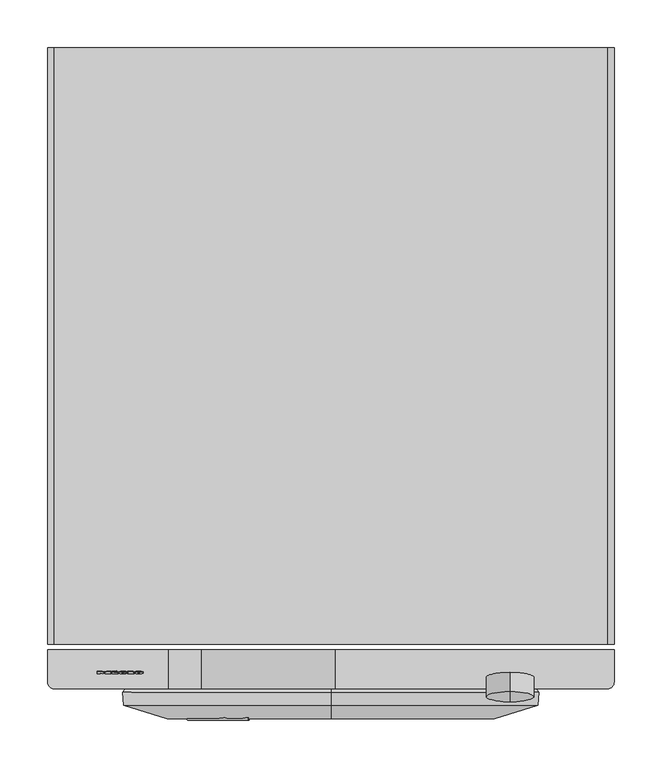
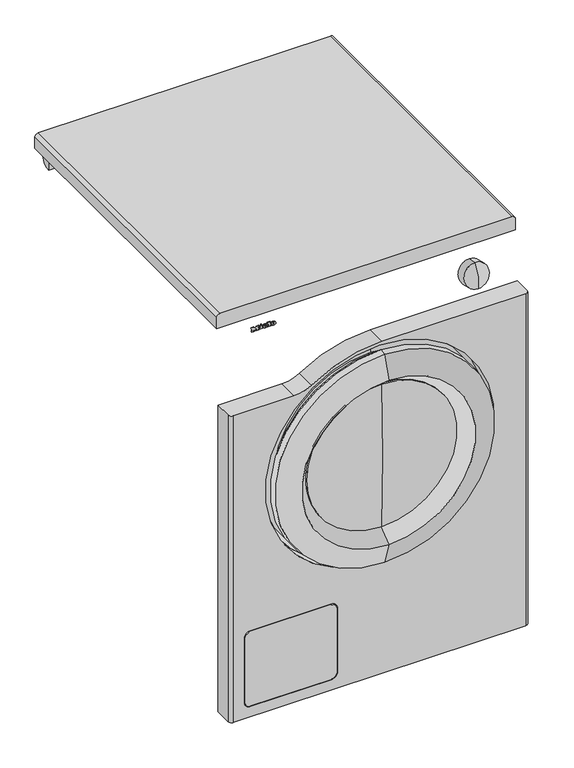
"""IFC4 building model written with IfcOpenShell, lengths in millimetres: proxy geometry, 11049680_D_PWM507DP_SST : 51507351_D_11049680_PWM507DP_SST."""

from ifc_helpers import new_model, si_unit, point, frame, frame_2d, origin, place, context, project, spatial, polyline, circle_curve, ellipse_curve, trimmed, segment, composite_curve, outline, extrude, source, transform, mapped, element, save
from ifc_brep_helpers import plane_surface, cylinder_surface, revolved_surface, extruded_surface, advanced_brep


def specialty_equipment_c7f8bacf(model_context):
    return source(origin(), model_context, "Body", "SolidModel", [
        advanced_brep(
        [(298.0, -637.0, 712.0), (298.0, -637.0, 13.5), (-298.0, -637.0, 13.5), (-298.0, -637.0, 659.0), (-170.4793435, -637.0, 659.0), (-135.8816811, -637.0, 669.4495268), (5.0, -637.0, 712.0), (0.0, -637.0, 628.0), (0.0, -637.0, 328.0), (-97.8720399, -637.0, 194.7938843), (-257.5266894, -637.0, 194.7938843), (-269.1610931, -637.0, 183.1594806), (-269.1610931, -637.0, 47.2319133), (-257.1610931, -637.0, 35.2319133), (-96.1598327, -637.0, 35.2319133), (-84.1993866, -637.0, 47.1923594), (-84.1993866, -637.0, 184.6186728), (-291.0, -678.0, 13.5), (291.0, -678.0, 13.5), (291.0, -678.0, 712.0), (5.0, -678.0, 712.0), (-135.8816811, -678.0, 669.4495268), (-170.4793435, -678.0, 659.0), (-291.0, -678.0, 659.0), (0.0, -678.0, 250.5), (0.0, -678.0, 705.5), (-257.5266894, -678.0, 194.7938843), (-97.8720399, -678.0, 194.7938843), (-84.1993866, -678.0, 184.6186728), (-84.1993866, -678.0, 47.1923594), (-96.1598327, -678.0, 35.2319133), (-257.1610931, -678.0, 35.2319133), (-269.1610931, -678.0, 47.2319133), (-269.1610931, -678.0, 183.1594806), (298.0, -671.0, 712.0), (-298.0, -671.0, 13.5), (-298.0, -671.0, 659.0), (298.0, -671.0, 13.5), (0.0, -653.2, 705.5), (0.0, -653.2, 250.5), (0.0, -645.7, 671.0), (0.0, -645.7, 698.0), (0.0, -645.7, 258.0), (0.0, -645.7, 285.0), (0.0, -638.7, 289.0414519), (0.0, -638.7, 666.9585481), (0.0, -638.7, 322.8), (0.0, -638.7, 633.2), (0.0, -648.5, 322.8), (0.0, -648.5, 633.2), (0.0, -648.5, 341.8), (0.0, -648.5, 614.2), (0.0, -646.0, 341.8), (0.0, -646.0, 614.2), (0.0, -646.0, 328.0), (0.0, -646.0, 628.0)],
        [
            (0, 1),
            (1, 2),
            (2, 3),
            (3, 4),
            (4, 5, circle_curve(frame((-170.4793435, -637.0, 721.5), z_axis=(0.0, -1.0, 0.0), x_axis=(1.0, 0.0, 0.0)), 62.5)),
            (5, 6, circle_curve(frame((5.0, -637.0, 457.5), z_axis=(0.0, 1.0, 0.0), x_axis=(1.0, 0.0, 0.0)), 254.5)),
            (6, 0),
            (7, 8, circle_curve(frame((0.0, -637.0, 478.0), z_axis=(0.0, -1.0, 0.0), x_axis=(0.0, 0.0, -1.0)), 150.0)),
            (8, 7, circle_curve(frame((0.0, -637.0, 478.0), z_axis=(0.0, -1.0, 0.0), x_axis=(0.0, 0.0, -1.0)), 150.0)),
            (9, 10),
            (10, 11, circle_curve(frame((-257.5266894, -637.0, 183.1594806), z_axis=(0.0, -1.0, 0.0), x_axis=(1.0, 0.0, 0.0)), 11.6344037)),
            (11, 12),
            (12, 13, circle_curve(frame((-257.1610931, -637.0, 47.2319133), z_axis=(0.0, -1.0, 0.0), x_axis=(1.0, 0.0, 0.0)), 12.0)),
            (13, 14),
            (14, 15, circle_curve(frame((-96.1598327, -637.0, 47.1923594), z_axis=(0.0, -1.0, 0.0), x_axis=(1.0, 0.0, 0.0)), 11.9604461)),
            (15, 16),
            (16, 9, circle_curve(frame((-97.8720399, -637.0, 180.5201576), z_axis=(0.0, -1.0, 0.0), x_axis=(1.0, 0.0, 0.0)), 14.2737268)),
            (17, 18),
            (18, 19),
            (19, 20),
            (20, 21, circle_curve(frame((5.0, -678.0, 457.5), z_axis=(0.0, -1.0, 0.0), x_axis=(1.0, 0.0, 0.0)), 254.5)),
            (21, 22, circle_curve(frame((-170.4793435, -678.0, 721.5), z_axis=(0.0, 1.0, 0.0), x_axis=(1.0, 0.0, 0.0)), 62.5)),
            (22, 23),
            (23, 17),
            (24, 25, circle_curve(frame((0.0, -678.0, 478.0), z_axis=(0.0, 1.0, 0.0), x_axis=(0.0, 0.0, -1.0)), 227.5)),
            (25, 24, circle_curve(frame((0.0, -678.0, 478.0), z_axis=(0.0, 1.0, 0.0), x_axis=(0.0, 0.0, -1.0)), 227.5)),
            (26, 27),
            (27, 28, circle_curve(frame((-97.8720399, -678.0, 180.5201576), z_axis=(0.0, 1.0, 0.0), x_axis=(1.0, 0.0, 0.0)), 14.2737268)),
            (28, 29),
            (29, 30, circle_curve(frame((-96.1598327, -678.0, 47.1923594), z_axis=(0.0, 1.0, 0.0), x_axis=(1.0, 0.0, 0.0)), 11.9604461)),
            (30, 31),
            (31, 32, circle_curve(frame((-257.1610931, -678.0, 47.2319133), z_axis=(0.0, 1.0, 0.0), x_axis=(1.0, 0.0, 0.0)), 12.0)),
            (32, 33),
            (33, 26, circle_curve(frame((-257.5266894, -678.0, 183.1594806), z_axis=(0.0, 1.0, 0.0), x_axis=(1.0, 0.0, 0.0)), 11.6344037)),
            (34, 0),
            (6, 20),
            (19, 34, circle_curve(frame((291.0, -671.0, 712.0), z_axis=(0.0, 0.0, 1.0), x_axis=(-1.0, 0.0, 0.0)), 7.0)),
            (2, 35),
            (35, 36),
            (36, 3),
            (1, 37),
            (37, 18, circle_curve(frame((291.0, -671.0, 13.5), z_axis=(0.0, 0.0, -1.0), x_axis=(-1.0, 0.0, 0.0)), 7.0)),
            (17, 35, circle_curve(frame((-291.0, -671.0, 13.5), z_axis=(0.0, 0.0, -1.0), x_axis=(-1.0, 0.0, 0.0)), 7.0)),
            (34, 37),
            (38, 25),
            (24, 39),
            (39, 38, circle_curve(frame((0.0, -653.2, 478.0), z_axis=(0.0, 1.0, 0.0), x_axis=(0.0, 0.0, -1.0)), 227.5)),
            (38, 39, circle_curve(frame((0.0, -653.2, 478.0), z_axis=(0.0, 1.0, 0.0), x_axis=(0.0, 0.0, -1.0)), 227.5)),
            (40, 41),
            (41, 42, circle_curve(frame((0.0, -645.7, 478.0), z_axis=(0.0, -1.0, 0.0), x_axis=(0.0, 0.0, -1.0)), 220.0)),
            (42, 43),
            (43, 40, circle_curve(frame((0.0, -645.7, 478.0), z_axis=(0.0, 1.0, 0.0), x_axis=(0.0, 0.0, -1.0)), 193.0)),
            (40, 43, circle_curve(frame((0.0, -645.7, 478.0), z_axis=(0.0, 1.0, 0.0), x_axis=(0.0, 0.0, -1.0)), 193.0)),
            (42, 41, circle_curve(frame((0.0, -645.7, 478.0), z_axis=(0.0, -1.0, 0.0), x_axis=(0.0, 0.0, -1.0)), 220.0)),
            (43, 44),
            (44, 45, circle_curve(frame((0.0, -638.7, 478.0), z_axis=(0.0, 1.0, 0.0), x_axis=(0.0, 0.0, -1.0)), 188.9585481)),
            (45, 40),
            (45, 44, circle_curve(frame((0.0, -638.7, 478.0), z_axis=(0.0, 1.0, 0.0), x_axis=(0.0, 0.0, -1.0)), 188.9585481)),
            (44, 46),
            (46, 47, circle_curve(frame((0.0, -638.7, 478.0), z_axis=(0.0, 1.0, 0.0), x_axis=(0.0, 0.0, -1.0)), 155.2)),
            (47, 45),
            (47, 46, circle_curve(frame((0.0, -638.7, 478.0), z_axis=(0.0, 1.0, 0.0), x_axis=(0.0, 0.0, -1.0)), 155.2)),
            (46, 48),
            (48, 49, circle_curve(frame((0.0, -648.5, 478.0), z_axis=(0.0, 1.0, 0.0), x_axis=(0.0, 0.0, -1.0)), 155.2)),
            (49, 47),
            (49, 48, circle_curve(frame((0.0, -648.5, 478.0), z_axis=(0.0, 1.0, 0.0), x_axis=(0.0, 0.0, -1.0)), 155.2)),
            (48, 50),
            (50, 51, circle_curve(frame((0.0, -648.5, 478.0), z_axis=(0.0, 1.0, 0.0), x_axis=(0.0, 0.0, -1.0)), 136.2)),
            (51, 49),
            (51, 50, circle_curve(frame((0.0, -648.5, 478.0), z_axis=(0.0, 1.0, 0.0), x_axis=(0.0, 0.0, -1.0)), 136.2)),
            (50, 52),
            (52, 53, circle_curve(frame((0.0, -646.0, 478.0), z_axis=(0.0, 1.0, 0.0), x_axis=(0.0, 0.0, -1.0)), 136.2)),
            (53, 51),
            (53, 52, circle_curve(frame((0.0, -646.0, 478.0), z_axis=(0.0, 1.0, 0.0), x_axis=(0.0, 0.0, -1.0)), 136.2)),
            (52, 54),
            (54, 55, circle_curve(frame((0.0, -646.0, 478.0), z_axis=(0.0, 1.0, 0.0), x_axis=(0.0, 0.0, -1.0)), 150.0)),
            (55, 53),
            (55, 54, circle_curve(frame((0.0, -646.0, 478.0), z_axis=(0.0, 1.0, 0.0), x_axis=(0.0, 0.0, -1.0)), 150.0)),
            (54, 8),
            (7, 55),
            (39, 42, circle_curve(frame((0.0, -653.2, 258.0), z_axis=(1.0, 0.0, 0.0), x_axis=(0.0, 1.0, 0.0)), 7.5)),
            (41, 38, circle_curve(frame((0.0, -653.2, 698.0), z_axis=(1.0, 0.0, 0.0), x_axis=(0.0, 1.0, 0.0)), 7.5)),
            (23, 36, circle_curve(frame((-291.0, -671.0, 659.0), z_axis=(0.0, 0.0, -1.0), x_axis=(-1.0, 0.0, 0.0)), 7.0)),
            (5, 21),
            (4, 22),
            (26, 10),
            (9, 27),
            (33, 11),
            (32, 12),
            (31, 13),
            (30, 14),
            (29, 15),
            (28, 16),
        ],
        [
            plane_surface(frame((-298.0, -637.0, 712.0), z_axis=(0.0, 1.0, 0.0), x_axis=(1.0, 0.0, 0.0))),
            plane_surface(frame((-298.0, -678.0, 712.0), z_axis=(0.0, -1.0, 0.0), x_axis=(-1.0, 0.0, 0.0))),
            plane_surface(frame((298.0, -678.0, 712.0), z_axis=(0.0, 0.0, 1.0), x_axis=(0.0, 1.0, 0.0))),
            plane_surface(frame((-298.0, -678.0, 712.0), z_axis=(-1.0, 0.0, 0.0), x_axis=(0.0, 1.0, 0.0))),
            plane_surface(frame((-298.0, -678.0, 13.5), z_axis=(0.0, 0.0, -1.0), x_axis=(0.0, 1.0, 0.0))),
            plane_surface(frame((298.0, -678.0, 13.5), z_axis=(1.0, 0.0, 0.0), x_axis=(0.0, 1.0, 0.0))),
            revolved_surface(polyline([(0.0, -653.2000000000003, 250.5), (0.0, -678.0, 250.5)]), (0.0, 1543.3738435, 478.0), (0.0, 1.0, 0.0)),
            plane_surface(frame((0.0, -645.7, 478.0), z_axis=(0.0, -1.0, 0.0), x_axis=(0.0, 0.0, -1.0))),
            revolved_surface(polyline([(0.0, -638.7, 289.0414519), (0.0, -645.7, 285.0)]), (0.0, 1543.3738435, 478.0), (0.0, 1.0, 0.0)),
            plane_surface(frame((0.0, -638.7, 478.0), z_axis=(0.0, -1.0, 0.0), x_axis=(0.0, 0.0, -1.0))),
            cylinder_surface(frame((0.0, 1543.3738435, 478.0), z_axis=(0.0, 1.0, 0.0), x_axis=(0.0, 0.0, -1.0)), 155.2),
            plane_surface(frame((0.0, -648.5, 478.0), z_axis=(0.0, -1.0, 0.0), x_axis=(0.0, 0.0, -1.0))),
            revolved_surface(polyline([(0.0, -646.0, 341.8), (0.0, -648.5, 341.8)]), (0.0, 1543.3738435, 478.0), (0.0, 1.0, 0.0)),
            plane_surface(frame((0.0, -646.0, 478.0), z_axis=(0.0, 1.0, 0.0), x_axis=(0.0, 0.0, -1.0))),
            revolved_surface(polyline([(0.0, -637.0, 328.0), (0.0, -646.0, 328.0)]), (0.0, 1543.3738435, 478.0), (0.0, 1.0, 0.0)),
            revolved_surface(trimmed(ellipse_curve(frame((0.0, -653.2, 258.0), z_axis=(-1.0, 0.0, 0.0), x_axis=(0.0, 1.0, 0.0)), 7.5, 7.5), [point((0.0, -645.7, 258.0))], [point((0.0, -653.2, 250.5))], True, "CARTESIAN"), (0.0, 1543.3738435, 478.0), (0.0, 1.0, 0.0)),
            cylinder_surface(frame((-291.0, -671.0, 712.0), z_axis=(0.0, 0.0, -1.0), x_axis=(-1.0, 0.0, 0.0)), 7.0),
            cylinder_surface(frame((291.0, -671.0, 712.0), z_axis=(0.0, 0.0, -1.0), x_axis=(-1.0, 0.0, 0.0)), 7.0),
            cylinder_surface(frame((5.0, -637.0, 457.5), z_axis=(0.0, 1.0, 0.0), x_axis=(1.0, 0.0, 0.0)), 254.5),
            revolved_surface(polyline([(-107.9793435, -678.0, 721.5), (-107.9793435, -637.0, 721.5)]), (-170.4793435, -637.0, 721.5), (0.0, -1.0, 0.0)),
            plane_surface(frame((-298.0, -678.0, 659.0), z_axis=(0.0, 0.0, 1.0), x_axis=(0.0, 1.0, 0.0))),
            plane_surface(frame((-97.8720399, -678.0, 194.7938843), z_axis=(0.0, 0.0, -1.0), x_axis=(0.0, 1.0, 0.0))),
            revolved_surface(polyline([(-245.8922857, -678.0, 183.1594806), (-245.8922857, -637.0, 183.1594806)]), (-257.5266894, -637.0, 183.1594806), (0.0, -1.0, 0.0)),
            plane_surface(frame((-269.1610931, -678.0, 183.1594806), z_axis=(1.0, 0.0, 0.0), x_axis=(0.0, 1.0, 0.0))),
            revolved_surface(polyline([(-245.16109310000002, -678.0, 47.2319133), (-245.16109310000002, -637.0, 47.2319133)]), (-257.1610931, -637.0, 47.2319133), (0.0, -1.0, 0.0)),
            plane_surface(frame((-257.1610931, -678.0, 35.2319133), z_axis=(0.0, 0.0, 1.0), x_axis=(0.0, 1.0, 0.0))),
            revolved_surface(polyline([(-84.1993866, -678.0, 47.1923594), (-84.1993866, -637.0, 47.1923594)]), (-96.1598327, -637.0, 47.1923594), (0.0, -1.0, 0.0)),
            plane_surface(frame((-84.1993866, -678.0, 47.1923594), z_axis=(-1.0, 0.0, 0.0), x_axis=(0.0, 1.0, 0.0))),
            revolved_surface(polyline([(-83.5983131, -678.0, 180.5201576), (-83.5983131, -637.0, 180.5201576)]), (-97.8720399, -637.0, 180.5201576), (0.0, -1.0, 0.0)),
        ],
        [
            (0, [[1, 2, 3, 4, 5, 6, 7], [8, 9], [10, 11, 12, 13, 14, 15, 16, 17]]),
            (1, [[18, 19, 20, 21, 22, 23, 24], [25, 26], [27, 28, 29, 30, 31, 32, 33, 34]]),
            (2, [[35, -7, 36, -20, 37]]),
            (3, [[38, 39, 40, -3]]),
            (4, [[-2, 41, 42, -18, 43, -38]]),
            (5, [[-1, -35, 44, -41]]),
            (6, [[45, -25, 46, 47]]),
            (6, [[-45, 48, -46, -26]]),
            (7, [[49, 50, 51, 52]]),
            (7, [[-49, 53, -51, 54]]),
            (8, [[-52, 55, 56, 57]]),
            (8, [[-53, -57, 58, -55]]),
            (9, [[-56, 59, 60, 61]]),
            (9, [[-58, -61, 62, -59]]),
            (10, [[-60, 63, 64, 65]]),
            (10, [[-62, -65, 66, -63]]),
            (11, [[-64, 67, 68, 69]]),
            (11, [[-66, -69, 70, -67]]),
            (12, [[-68, 71, 72, 73]]),
            (12, [[-70, -73, 74, -71]]),
            (13, [[-72, 75, 76, 77]]),
            (13, [[-74, -77, 78, -75]]),
            (14, [[-76, 79, -8, 80]]),
            (14, [[-78, -80, -9, -79]]),
            (15, [[-47, 81, -50, 82]]),
            (15, [[-48, -82, -54, -81]]),
            (16, [[-43, -24, 83, -39]]),
            (17, [[-19, -42, -44, -37]]),
            (18, [[84, -21, -36, -6]]),
            (19, [[-84, -5, 85, -22]]),
            (20, [[-85, -4, -40, -83, -23]]),
            (21, [[86, -10, 87, -27]]),
            (22, [[-86, -34, 88, -11]]),
            (23, [[-88, -33, 89, -12]]),
            (24, [[-89, -32, 90, -13]]),
            (25, [[-90, -31, 91, -14]]),
            (26, [[-91, -30, 92, -15]]),
            (27, [[-92, -29, 93, -16]]),
            (28, [[-87, -17, -93, -28]]),
        ],
    ),
        advanced_brep(
        [(-85.1993866, -637.0, 178.871588), (-85.1993866, -637.0, 49.2598644), (-98.2273377, -637.0, 36.2319133), (-257.1610931, -637.0, 36.2319133), (-268.1610931, -637.0, 47.2319133), (-268.1610931, -637.0, 180.922098), (-255.2893068, -637.0, 193.7938843), (-99.0652877, -637.0, 193.7938843), (-85.1993866, -678.0, 49.2598644), (-85.1993866, -678.0, 178.871588), (-99.0652877, -678.0, 193.7938843), (-255.2893068, -678.0, 193.7938843), (-268.1610931, -678.0, 180.922098), (-268.1610931, -678.0, 47.2319133), (-257.1610931, -678.0, 36.2319133), (-98.2273377, -678.0, 36.2319133)],
        [
            (0, 1),
            (1, 2, circle_curve(frame((-98.2273377, -637.0, 49.2598644), z_axis=(0.0, 1.0, 0.0), x_axis=(1.0, 0.0, 0.0)), 13.0279511)),
            (2, 3),
            (3, 4, circle_curve(frame((-257.1610931, -637.0, 47.2319133), z_axis=(0.0, 1.0, 0.0), x_axis=(1.0, 0.0, 0.0)), 11.0)),
            (4, 5),
            (5, 6, circle_curve(frame((-255.2893068, -637.0, 180.922098), z_axis=(0.0, 1.0, 0.0), x_axis=(1.0, 0.0, 0.0)), 12.8717863)),
            (6, 7),
            (7, 0, circle_curve(frame((-99.9078885, -637.0, 179.10764), z_axis=(0.0, 1.0, 0.0), x_axis=(1.0, 0.0, 0.0)), 14.7103959)),
            (8, 9),
            (9, 10, circle_curve(frame((-99.9078885, -678.0, 179.10764), z_axis=(0.0, -1.0, 0.0), x_axis=(1.0, 0.0, 0.0)), 14.7103959)),
            (10, 11),
            (11, 12, circle_curve(frame((-255.2893068, -678.0, 180.922098), z_axis=(0.0, -1.0, 0.0), x_axis=(1.0, 0.0, 0.0)), 12.8717863)),
            (12, 13),
            (13, 14, circle_curve(frame((-257.1610931, -678.0, 47.2319133), z_axis=(0.0, -1.0, 0.0), x_axis=(1.0, 0.0, 0.0)), 11.0)),
            (14, 15),
            (15, 8, circle_curve(frame((-98.2273377, -678.0, 49.2598644), z_axis=(0.0, -1.0, 0.0), x_axis=(1.0, 0.0, 0.0)), 13.0279511)),
            (8, 1),
            (0, 9),
            (15, 2),
            (14, 3),
            (13, 4),
            (12, 5),
            (11, 6),
            (10, 7),
        ],
        [
            plane_surface(frame((-298.0, -637.0, 712.0), z_axis=(0.0, 1.0, 0.0), x_axis=(1.0, 0.0, 0.0))),
            plane_surface(frame((-298.0, -678.0, 712.0), z_axis=(0.0, -1.0, 0.0), x_axis=(-1.0, 0.0, 0.0))),
            plane_surface(frame((-85.1993866, -678.0, 178.871588), z_axis=(1.0, 0.0, 0.0), x_axis=(0.0, 1.0, 0.0))),
            cylinder_surface(frame((-98.2273377, 0.0, 49.2598644), z_axis=(0.0, 1.0, 0.0), x_axis=(1.0, 0.0, 0.0)), 13.0279511),
            plane_surface(frame((-98.2273377, -678.0, 36.2319133), z_axis=(0.0, 0.0, -1.0), x_axis=(0.0, 1.0, 0.0))),
            cylinder_surface(frame((-257.1610931, 0.0, 47.2319133), z_axis=(0.0, 1.0, 0.0), x_axis=(1.0, 0.0, 0.0)), 11.0),
            plane_surface(frame((-268.1610931, -678.0, 47.2319133), z_axis=(-1.0, 0.0, 0.0), x_axis=(0.0, 1.0, 0.0))),
            cylinder_surface(frame((-255.2893068, 0.0, 180.922098), z_axis=(0.0, 1.0, 0.0), x_axis=(1.0, 0.0, 0.0)), 12.8717863),
            plane_surface(frame((-255.2893068, -678.0, 193.7938843), z_axis=(0.0, 0.0, 1.0), x_axis=(0.0, 1.0, 0.0))),
            cylinder_surface(frame((-99.9078885, 0.0, 179.10764), z_axis=(0.0, 1.0, 0.0), x_axis=(1.0, 0.0, 0.0)), 14.7103959),
        ],
        [
            (0, [[1, 2, 3, 4, 5, 6, 7, 8]]),
            (1, [[9, 10, 11, 12, 13, 14, 15, 16]]),
            (2, [[17, -1, 18, -9]]),
            (3, [[-17, -16, 19, -2]]),
            (4, [[-19, -15, 20, -3]]),
            (5, [[-20, -14, 21, -4]]),
            (6, [[-21, -13, 22, -5]]),
            (7, [[-22, -12, 23, -6]]),
            (8, [[-23, -11, 24, -7]]),
            (9, [[-18, -8, -24, -10]]),
        ],
    ),
        advanced_brep(
        [(-202.64, -661.6785086, 811.5729364), (-202.64, -661.5105159, 812.3632796), (-197.288, -661.5105159, 812.3632796), (-206.6, -661.5105159, 812.3632796), (-204.4, -662.0727091, 809.7183685), (-197.424, -661.6785086, 811.5729364), (-199.84, -661.6785086, 811.5729364), (-201.744, -661.8647975, 810.6965161), (-202.64, -661.2976144, 813.3649028), (-202.64, -661.1163154, 814.2178475), (-201.272, -661.1163154, 814.2178475), (-201.272, -661.2976144, 813.3649028), (-202.64, -660.700361, 811.3650247), (-201.744, -660.8866499, 810.4886044), (-199.84, -660.700361, 811.3650247), (-197.424, -660.700361, 811.3650247), (-204.4, -661.0945615, 809.5104568), (-206.6, -660.5323683, 812.1553679), (-197.288, -660.5323683, 812.1553679), (-202.64, -660.5323683, 812.1553679), (-202.64, -660.3194668, 813.1569911), (-201.272, -660.3194668, 813.1569911), (-201.272, -660.1381678, 814.0099358), (-202.64, -660.1381678, 814.0099358)],
        [
            (0, 1),
            (1, 2),
            (2, 3, ellipse_curve(frame((-201.944, -661.5105159, 812.3632796), z_axis=(0.0, -0.9781476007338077, 0.2079116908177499), x_axis=(-1.0, 0.0, 0.0)), 4.656, 3.848)),
            (3, 4, circle_curve(frame((-203.5039564, -661.453964, 812.6293358), z_axis=(0.0, -0.9781476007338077, 0.2079116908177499), x_axis=(0.0, -0.2079116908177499, -0.9781476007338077)), 3.1079688)),
            (4, 5, circle_curve(frame((-202.0372064, -661.0148545, 814.6951835), z_axis=(0.0, -0.9781476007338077, 0.2079116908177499), x_axis=(0.0, -0.2079116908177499, -0.9781476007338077)), 5.6098607)),
            (5, 6),
            (6, 7, circle_curve(frame((-201.3529412, -661.5238223, 812.3006782), z_axis=(0.0, 0.9781476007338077, -0.2079116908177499), x_axis=(0.0, -0.2079116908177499, -0.9781476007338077)), 1.6859795)),
            (7, 0, circle_curve(frame((-201.744, -661.6785086, 811.5729364), z_axis=(0.0, 0.9781476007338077, -0.2079116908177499), x_axis=(0.0, -0.2079116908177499, -0.9781476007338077)), 0.896)),
            (8, 9),
            (9, 10, circle_curve(frame((-201.956, -661.1163154, 814.2178475), z_axis=(0.0, 0.9781476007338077, -0.2079116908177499), x_axis=(0.0, -0.2079116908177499, -0.9781476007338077)), 0.684)),
            (10, 11),
            (11, 8),
            (12, 13, circle_curve(frame((-201.744, -660.700361, 811.3650247), z_axis=(0.0, -0.9781476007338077, 0.2079116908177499), x_axis=(0.0, -0.2079116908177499, -0.9781476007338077)), 0.896)),
            (13, 14, circle_curve(frame((-201.3529412, -660.5456747, 812.0927665), z_axis=(0.0, -0.9781476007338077, 0.2079116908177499), x_axis=(0.0, -0.2079116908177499, -0.9781476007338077)), 1.6859795)),
            (14, 15),
            (15, 16, circle_curve(frame((-202.0372064, -660.0367069, 814.4872718), z_axis=(0.0, 0.9781476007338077, -0.2079116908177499), x_axis=(0.0, -0.2079116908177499, -0.9781476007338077)), 5.6098607)),
            (16, 17, circle_curve(frame((-203.5039564, -660.4758164, 812.4214241), z_axis=(0.0, 0.9781476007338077, -0.2079116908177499), x_axis=(0.0, -0.2079116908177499, -0.9781476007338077)), 3.1079688)),
            (17, 18, ellipse_curve(frame((-201.944, -660.5323683, 812.1553679), z_axis=(0.0, 0.9781476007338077, -0.2079116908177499), x_axis=(-1.0, 0.0, 0.0)), 4.656, 3.848)),
            (18, 19),
            (19, 12),
            (20, 21),
            (21, 22),
            (22, 23, circle_curve(frame((-201.956, -660.1381678, 814.0099358), z_axis=(0.0, -0.9781476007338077, 0.2079116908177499), x_axis=(0.0, -0.2079116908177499, -0.9781476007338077)), 0.684)),
            (23, 20),
            (0, 12),
            (19, 1),
            (18, 2),
            (5, 15),
            (14, 6),
            (17, 3),
            (13, 7),
            (16, 4),
            (8, 20),
            (23, 9),
            (22, 10),
            (21, 11),
        ],
        [
            plane_surface(frame((-202.64, -661.5105159, 812.3632796), z_axis=(0.0, -0.9781476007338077, 0.2079116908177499), x_axis=(0.0, 0.2079116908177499, 0.9781476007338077))),
            plane_surface(frame((-202.64, -660.5323683, 812.1553679), z_axis=(0.0, 0.9781476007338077, -0.2079116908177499), x_axis=(0.0, -0.2079116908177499, -0.9781476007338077))),
            plane_surface(frame((-202.64, -661.6785086, 811.5729364), z_axis=(1.0000000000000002, 0.0, 0.0), x_axis=(0.0, 0.978147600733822, -0.20791169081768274))),
            plane_surface(frame((-202.64, -661.5105159, 812.3632796), z_axis=(0.0, -0.20791169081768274, -0.978147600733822), x_axis=(0.0, 0.978147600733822, -0.20791169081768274))),
            plane_surface(frame((-197.424, -661.6785086, 811.5729364), z_axis=(0.0, 0.20791169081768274, 0.978147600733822), x_axis=(0.0, 0.978147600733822, -0.20791169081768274))),
            extruded_surface(trimmed(ellipse_curve(frame((-201.944, -659.5542207, 811.9474562), z_axis=(0.0, -0.9781476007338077, 0.2079116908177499), x_axis=(-1.0, 0.0, 0.0)), 4.656, 3.848), [point((-197.288, -659.5542207, 811.9474562))], [point((-206.6, -659.5542207, 811.9474562))], True, "CARTESIAN"), (0.0, -0.9781476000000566, 0.20791169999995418), 1.0000000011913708),
            revolved_surface(polyline([(-201.3529412, -660.896209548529, 810.4436296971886), (-201.3529412, -661.8743571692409, 810.6515413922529)]), (-201.3529412, -660.5456747, 812.0927665), (0.0, 0.9781476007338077, -0.2079116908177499)),
            revolved_surface(polyline([(-201.744, -660.8866498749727, 810.4886044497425), (-201.744, -661.8647974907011, 810.6965161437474)]), (-201.744, -660.700361, 811.3650247), (0.0, 0.9781476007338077, -0.2079116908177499)),
            cylinder_surface(frame((-203.5039564, -660.4758164, 812.4214241), z_axis=(0.0, -0.9781476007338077, 0.2079116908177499), x_axis=(0.0, -0.2079116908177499, -0.9781476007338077)), 3.1079688),
            cylinder_surface(frame((-202.0372064, -660.0367069, 814.4872718), z_axis=(0.0, -0.9781476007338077, 0.2079116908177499), x_axis=(0.0, -0.2079116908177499, -0.9781476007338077)), 5.6098607),
            plane_surface(frame((-202.64, -661.2976144, 813.3649028), z_axis=(1.0000000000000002, 0.0, 0.0), x_axis=(0.0, 0.9781476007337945, -0.20791169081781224))),
            revolved_surface(polyline([(-201.956, -660.2803793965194, 813.340882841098), (-201.956, -661.2585269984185, 813.5487945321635)]), (-201.956, -660.1381678, 814.0099358), (0.0, 0.9781476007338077, -0.2079116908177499)),
            plane_surface(frame((-201.272, -661.1163154, 814.2178475), z_axis=(-1.0000000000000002, 0.0, 0.0), x_axis=(0.0, 0.978147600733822, -0.20791169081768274))),
            plane_surface(frame((-201.272, -661.2976144, 813.3649028), z_axis=(0.0, 0.20791169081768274, 0.978147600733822), x_axis=(0.0, 0.978147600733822, -0.20791169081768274))),
        ],
        [
            (0, [[1, 2, 3, 4, 5, 6, 7, 8], [9, 10, 11, 12]]),
            (1, [[13, 14, 15, 16, 17, 18, 19, 20], [21, 22, 23, 24]]),
            (2, [[-1, 25, -20, 26]]),
            (3, [[-2, -26, -19, 27]]),
            (4, [[-6, 28, -15, 29]]),
            (5, [[-3, -27, -18, 30]]),
            (6, [[-7, -29, -14, 31]]),
            (7, [[-8, -31, -13, -25]]),
            (8, [[-4, -30, -17, 32]]),
            (9, [[-5, -32, -16, -28]]),
            (10, [[-9, 33, -24, 34]]),
            (11, [[-10, -34, -23, 35]]),
            (12, [[-11, -35, -22, 36]]),
            (13, [[-12, -36, -21, -33]]),
        ],
    ),
        advanced_brep(
        [(-219.336, -661.6785086, 811.5729364), (-219.336, -661.5105159, 812.3632796), (-213.984, -661.5105159, 812.3632796), (-223.296, -661.5105159, 812.3632796), (-221.096, -662.0727091, 809.7183685), (-214.12, -661.6785086, 811.5729364), (-216.536, -661.6785086, 811.5729364), (-218.44, -661.8647975, 810.6965161), (-219.336, -661.2976144, 813.3649028), (-219.336, -661.1163154, 814.2178475), (-217.968, -661.1163154, 814.2178475), (-217.968, -661.2976144, 813.3649028), (-219.336, -660.700361, 811.3650247), (-218.44, -660.8866499, 810.4886044), (-216.536, -660.700361, 811.3650247), (-214.12, -660.700361, 811.3650247), (-221.096, -661.0945615, 809.5104568), (-223.296, -660.5323683, 812.1553679), (-213.984, -660.5323683, 812.1553679), (-219.336, -660.5323683, 812.1553679), (-219.336, -660.3194668, 813.1569911), (-217.968, -660.3194668, 813.1569911), (-217.968, -660.1381678, 814.0099358), (-219.336, -660.1381678, 814.0099358)],
        [
            (0, 1),
            (1, 2),
            (2, 3, ellipse_curve(frame((-218.64, -661.5105159, 812.3632796), z_axis=(0.0, -0.9781476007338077, 0.2079116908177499), x_axis=(-1.0, 0.0, 0.0)), 4.656, 3.848)),
            (3, 4, circle_curve(frame((-220.1999564, -661.453964, 812.6293358), z_axis=(0.0, -0.9781476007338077, 0.2079116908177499), x_axis=(0.0, -0.2079116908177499, -0.9781476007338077)), 3.1079688)),
            (4, 5, circle_curve(frame((-218.7332064, -661.0148545, 814.6951835), z_axis=(0.0, -0.9781476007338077, 0.2079116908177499), x_axis=(0.0, -0.2079116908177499, -0.9781476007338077)), 5.6098607)),
            (5, 6),
            (6, 7, circle_curve(frame((-218.0489412, -661.5238223, 812.3006782), z_axis=(0.0, 0.9781476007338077, -0.2079116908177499), x_axis=(0.0, -0.2079116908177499, -0.9781476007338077)), 1.6859795)),
            (7, 0, circle_curve(frame((-218.44, -661.6785086, 811.5729364), z_axis=(0.0, 0.9781476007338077, -0.2079116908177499), x_axis=(0.0, -0.2079116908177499, -0.9781476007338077)), 0.896)),
            (8, 9),
            (9, 10, circle_curve(frame((-218.652, -661.1163154, 814.2178475), z_axis=(0.0, 0.9781476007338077, -0.2079116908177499), x_axis=(0.0, -0.2079116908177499, -0.9781476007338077)), 0.684)),
            (10, 11),
            (11, 8),
            (12, 13, circle_curve(frame((-218.44, -660.700361, 811.3650247), z_axis=(0.0, -0.9781476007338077, 0.2079116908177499), x_axis=(0.0, -0.2079116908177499, -0.9781476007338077)), 0.896)),
            (13, 14, circle_curve(frame((-218.0489412, -660.5456747, 812.0927665), z_axis=(0.0, -0.9781476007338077, 0.2079116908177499), x_axis=(0.0, -0.2079116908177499, -0.9781476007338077)), 1.6859795)),
            (14, 15),
            (15, 16, circle_curve(frame((-218.7332064, -660.0367069, 814.4872718), z_axis=(0.0, 0.9781476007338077, -0.2079116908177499), x_axis=(0.0, -0.2079116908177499, -0.9781476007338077)), 5.6098607)),
            (16, 17, circle_curve(frame((-220.1999564, -660.4758164, 812.4214241), z_axis=(0.0, 0.9781476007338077, -0.2079116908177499), x_axis=(0.0, -0.2079116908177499, -0.9781476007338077)), 3.1079688)),
            (17, 18, ellipse_curve(frame((-218.64, -660.5323683, 812.1553679), z_axis=(0.0, 0.9781476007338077, -0.2079116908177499), x_axis=(-1.0, 0.0, 0.0)), 4.656, 3.848)),
            (18, 19),
            (19, 12),
            (20, 21),
            (21, 22),
            (22, 23, circle_curve(frame((-218.652, -660.1381678, 814.0099358), z_axis=(0.0, -0.9781476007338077, 0.2079116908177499), x_axis=(0.0, -0.2079116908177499, -0.9781476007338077)), 0.684)),
            (23, 20),
            (0, 12),
            (19, 1),
            (18, 2),
            (5, 15),
            (14, 6),
            (17, 3),
            (13, 7),
            (16, 4),
            (8, 20),
            (23, 9),
            (22, 10),
            (21, 11),
        ],
        [
            plane_surface(frame((-219.336, -661.5105159, 812.3632796), z_axis=(0.0, -0.9781476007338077, 0.2079116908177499), x_axis=(0.0, 0.2079116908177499, 0.9781476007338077))),
            plane_surface(frame((-219.336, -660.5323683, 812.1553679), z_axis=(0.0, 0.9781476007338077, -0.2079116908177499), x_axis=(0.0, -0.2079116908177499, -0.9781476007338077))),
            plane_surface(frame((-219.336, -661.6785086, 811.5729364), z_axis=(1.0000000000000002, 0.0, 0.0), x_axis=(0.0, 0.978147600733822, -0.20791169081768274))),
            plane_surface(frame((-219.336, -661.5105159, 812.3632796), z_axis=(0.0, -0.20791169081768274, -0.978147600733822), x_axis=(0.0, 0.978147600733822, -0.20791169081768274))),
            plane_surface(frame((-214.12, -661.6785086, 811.5729364), z_axis=(0.0, 0.20791169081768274, 0.978147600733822), x_axis=(0.0, 0.978147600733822, -0.20791169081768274))),
            extruded_surface(trimmed(ellipse_curve(frame((-218.64, -659.5542207, 811.9474562), z_axis=(0.0, -0.9781476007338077, 0.2079116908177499), x_axis=(-1.0, 0.0, 0.0)), 4.656, 3.848), [point((-213.984, -659.5542207, 811.9474562))], [point((-223.296, -659.5542207, 811.9474562))], True, "CARTESIAN"), (0.0, -0.9781476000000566, 0.20791169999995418), 1.0000000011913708),
            revolved_surface(polyline([(-218.0489412, -660.896209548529, 810.4436296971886), (-218.0489412, -661.8743571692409, 810.6515413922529)]), (-218.0489412, -660.5456747, 812.0927665), (0.0, 0.9781476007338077, -0.2079116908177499)),
            revolved_surface(polyline([(-218.44, -660.8866498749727, 810.4886044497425), (-218.44, -661.8647974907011, 810.6965161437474)]), (-218.44, -660.700361, 811.3650247), (0.0, 0.9781476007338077, -0.2079116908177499)),
            cylinder_surface(frame((-220.1999564, -660.4758164, 812.4214241), z_axis=(0.0, -0.9781476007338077, 0.2079116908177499), x_axis=(0.0, -0.2079116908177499, -0.9781476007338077)), 3.1079688),
            cylinder_surface(frame((-218.7332064, -660.0367069, 814.4872718), z_axis=(0.0, -0.9781476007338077, 0.2079116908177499), x_axis=(0.0, -0.2079116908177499, -0.9781476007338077)), 5.6098607),
            plane_surface(frame((-219.336, -661.2976144, 813.3649028), z_axis=(1.0000000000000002, 0.0, 0.0), x_axis=(0.0, 0.9781476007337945, -0.20791169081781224))),
            revolved_surface(polyline([(-218.652, -660.2803793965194, 813.340882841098), (-218.652, -661.2585269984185, 813.5487945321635)]), (-218.652, -660.1381678, 814.0099358), (0.0, 0.9781476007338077, -0.2079116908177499)),
            plane_surface(frame((-217.968, -661.1163154, 814.2178475), z_axis=(-1.0000000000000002, 0.0, 0.0), x_axis=(0.0, 0.978147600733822, -0.20791169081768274))),
            plane_surface(frame((-217.968, -661.2976144, 813.3649028), z_axis=(0.0, 0.20791169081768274, 0.978147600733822), x_axis=(0.0, 0.978147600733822, -0.20791169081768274))),
        ],
        [
            (0, [[1, 2, 3, 4, 5, 6, 7, 8], [9, 10, 11, 12]]),
            (1, [[13, 14, 15, 16, 17, 18, 19, 20], [21, 22, 23, 24]]),
            (2, [[-1, 25, -20, 26]]),
            (3, [[-2, -26, -19, 27]]),
            (4, [[-6, 28, -15, 29]]),
            (5, [[-3, -27, -18, 30]]),
            (6, [[-7, -29, -14, 31]]),
            (7, [[-8, -31, -13, -25]]),
            (8, [[-4, -30, -17, 32]]),
            (9, [[-5, -32, -16, -28]]),
            (10, [[-9, 33, -24, 34]]),
            (11, [[-10, -34, -23, 35]]),
            (12, [[-11, -35, -22, 36]]),
            (13, [[-12, -36, -21, -33]]),
        ],
    ),
        extrude(outline(polyline([(0.0, 0.0), (-0.0109087, -2.9993294), (-1.4390416, -2.9920868), (-1.4315307, 0.0), (0.0, 0.0)])), frame((-228.08, -659.5294023, 816.873952), z_axis=(0.0, -0.9781476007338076, 0.20791169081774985), x_axis=(-0.42472021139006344, 0.18822758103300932, 0.8855411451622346)), (0.0, 0.0, 1.0), 1.0),
        extrude(outline(polyline([(-0.4933908, 2.4141097), (-2.7800844, -2.4601583), (-7.0459742, -0.4588766), (-7.4401146, -1.2990179), (-8.6568709, -0.728194), (-5.976037, 4.9862153), (-4.7592806, 4.4153913), (-5.1636142, 3.5535223), (-2.1941494, 2.16044), (-1.7898157, 3.0223091), (-0.4933908, 2.4141097)])), frame((-228.08, -659.5294023, 816.873952), z_axis=(0.0, -0.9781476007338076, 0.20791169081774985), x_axis=(-0.42472021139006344, 0.18822758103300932, 0.8855411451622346)), (0.0, 0.0, 1.0), 1.0),
        extrude(outline(polyline([(0.0, 0.0), (0.0, -1.3039999), (-5.504, -1.3039999), (-5.504, 5.352), (-6.488, 5.352), (-6.488, 6.696), (0.0, 6.696), (0.0, 5.352), (-0.96, 5.352), (-0.96, 0.0), (0.0, 0.0)])), frame((-213.536, -659.7023849, 816.0601332), z_axis=(0.0, -0.9781476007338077, 0.2079116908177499), x_axis=(-1.0, 0.0, 0.0)), (0.0, 0.0, 1.0), 1.0),
        extrude(outline(polyline([(0.0, 0.0), (0.0, -1.3039999), (-5.576, -1.3039999), (-7.92, 1.6960001), (-10.256, -1.3039999), (-15.128, -1.3039999), (-15.128, 0.0), (-14.112, 0.0), (-14.112, 5.352), (-15.128, 5.352), (-15.128, 6.696), (-8.744, 6.696), (-8.744, 5.352), (-9.728, 5.352), (-9.728, 1.8807777), (-6.136, 6.696), (-2.56, 1.9488753), (-2.56, 5.352), (-3.52, 5.352), (-3.52, 6.696), (0.0, 6.696), (0.0, 5.352), (-0.968, 5.352), (-0.968, 0.0), (0.0, 0.0)])), frame((-246.0, -659.7023849, 816.0601332), z_axis=(0.0, -0.9781476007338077, 0.2079116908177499), x_axis=(-1.0, 0.0, 0.0)), (0.0, 0.0, 1.0), 1.0),
        advanced_brep(
        [(-86.5, -711.2, 627.8223949), (-86.5, -708.2, 627.8223949), (-149.8223949, -711.2, 564.5), (-149.8223949, -708.2, 564.5)],
        [
            (0, 1, circle_curve(frame((-86.5, -709.7, 627.8223949), z_axis=(0.8660254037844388, 0.0, 0.49999999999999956), x_axis=(0.0, 1.0, 0.0)), 1.5)),
            (1, 0, circle_curve(frame((-86.5, -709.7, 627.8223949), z_axis=(0.8660254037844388, 0.0, 0.49999999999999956), x_axis=(0.0, 1.0, 0.0)), 1.5)),
            (2, 3, circle_curve(frame((-149.8223949, -709.7, 564.5), z_axis=(-0.5000000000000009, 0.0, -0.8660254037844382), x_axis=(0.0, 1.0, 0.0)), 1.5)),
            (3, 2, circle_curve(frame((-149.8223949, -709.7, 564.5), z_axis=(-0.5000000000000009, 0.0, -0.8660254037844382), x_axis=(0.0, 1.0, 0.0)), 1.5)),
            (3, 1, circle_curve(frame((0.0, -708.2, 478.0), z_axis=(0.0, 1.0, 0.0), x_axis=(-0.49999999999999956, 0.0, 0.8660254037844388)), 173.0)),
            (0, 2, circle_curve(frame((0.0, -711.2, 478.0), z_axis=(0.0, -1.0, 0.0), x_axis=(-0.49999999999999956, 0.0, 0.8660254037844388)), 173.0)),
        ],
        [
            plane_surface(frame((0.0, 1543.3738435, 478.0), z_axis=(0.8660254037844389, 0.0, 0.4999999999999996), x_axis=(-0.4999999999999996, 0.0, 0.8660254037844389))),
            plane_surface(frame((0.0, 1543.3738435, 478.0), z_axis=(-0.5000000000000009, 0.0, -0.8660254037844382), x_axis=(-0.8660254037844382, 0.0, 0.5000000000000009))),
            revolved_surface(trimmed(ellipse_curve(frame((-86.5, -709.7, 627.8223949), z_axis=(-0.8660254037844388, 0.0, -0.49999999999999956), x_axis=(0.0, 1.0, 0.0)), 1.5, 1.5), [point((-86.5, -708.2, 627.8223949))], [point((-86.5, -711.2, 627.8223949))], True, "CARTESIAN"), (0.0, 1543.3738435, 478.0), (0.0, 1.0, 0.0)),
            revolved_surface(trimmed(ellipse_curve(frame((-86.5, -709.7, 627.8223949), z_axis=(-0.8660254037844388, 0.0, -0.49999999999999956), x_axis=(0.0, 1.0, 0.0)), 1.5, 1.5), [point((-86.5, -711.2, 627.8223949))], [point((-86.5, -708.2, 627.8223949))], True, "CARTESIAN"), (0.0, 1543.3738435, 478.0), (0.0, 1.0, 0.0)),
        ],
        [
            (0, [[1, 2]]),
            (1, [[3, 4]]),
            (2, [[5, -1, 6, -4]]),
            (3, [[-6, -2, -5, -3]]),
        ],
    ),
        advanced_brep(
        [(0.0, -669.2, 328.0), (0.0, -669.2, 628.0), (0.0, -681.5454628, 628.0), (0.0, -681.5454628, 328.0), (0.0, -669.2, 314.0), (0.0, -669.2, 642.0), (0.0, -666.0, 302.5), (0.0, -666.0, 653.5), (0.0, -666.0, 270.7782663), (0.0, -666.0, 685.2217337), (0.0, -681.8, 257.8), (0.0, -681.8, 698.2), (0.0, -695.2157986, 259.0), (0.0, -695.2157986, 697.0), (0.0, -709.667863, 304.9), (0.0, -709.667863, 651.1)],
        [
            (0, 1, circle_curve(frame((0.0, -669.2, 478.0), z_axis=(0.0, 1.0, 0.0), x_axis=(0.0, 0.0, 1.0)), 150.0)),
            (1, 2),
            (2, 3, circle_curve(frame((0.0, -681.5454628, 478.0), z_axis=(0.0, -1.0, 0.0), x_axis=(0.0, 0.0, 1.0)), 150.0)),
            (3, 0),
            (1, 0, circle_curve(frame((0.0, -669.2, 478.0), z_axis=(0.0, 1.0, 0.0), x_axis=(0.0, 0.0, 1.0)), 150.0)),
            (3, 2, circle_curve(frame((0.0, -681.5454628, 478.0), z_axis=(0.0, -1.0, 0.0), x_axis=(0.0, 0.0, 1.0)), 150.0)),
            (4, 5, circle_curve(frame((0.0, -669.2, 478.0), z_axis=(0.0, 1.0, 0.0), x_axis=(0.0, 0.0, 1.0)), 164.0)),
            (5, 1),
            (0, 4),
            (5, 4, circle_curve(frame((0.0, -669.2, 478.0), z_axis=(0.0, 1.0, 0.0), x_axis=(0.0, 0.0, 1.0)), 164.0)),
            (6, 7, circle_curve(frame((0.0, -666.0, 478.0), z_axis=(0.0, 1.0, 0.0), x_axis=(0.0, 0.0, 1.0)), 175.5)),
            (7, 5),
            (4, 6),
            (7, 6, circle_curve(frame((0.0, -666.0, 478.0), z_axis=(0.0, 1.0, 0.0), x_axis=(0.0, 0.0, 1.0)), 175.5)),
            (8, 9, circle_curve(frame((0.0, -666.0, 478.0), z_axis=(0.0, 1.0, 0.0), x_axis=(0.0, 0.0, 1.0)), 207.2217337)),
            (9, 7),
            (6, 8),
            (9, 8, circle_curve(frame((0.0, -666.0, 478.0), z_axis=(0.0, 1.0, 0.0), x_axis=(0.0, 0.0, 1.0)), 207.2217337)),
            (10, 11, circle_curve(frame((0.0, -681.8, 478.0), z_axis=(0.0, 1.0, 0.0), x_axis=(0.0, 0.0, 1.0)), 220.2)),
            (11, 9),
            (8, 10),
            (11, 10, circle_curve(frame((0.0, -681.8, 478.0), z_axis=(0.0, 1.0, 0.0), x_axis=(0.0, 0.0, 1.0)), 220.2)),
            (12, 13, circle_curve(frame((0.0, -695.2157986, 478.0), z_axis=(0.0, 1.0, 0.0), x_axis=(0.0, 0.0, 1.0)), 219.0)),
            (13, 11),
            (10, 12),
            (13, 12, circle_curve(frame((0.0, -695.2157986, 478.0), z_axis=(0.0, 1.0, 0.0), x_axis=(0.0, 0.0, 1.0)), 219.0)),
            (14, 15, circle_curve(frame((0.0, -709.667863, 478.0), z_axis=(0.0, 1.0, 0.0), x_axis=(0.0, 0.0, 1.0)), 173.1)),
            (15, 13, circle_curve(frame((0.0, -130.6, 494.0), z_axis=(-1.0, 0.0, 0.0), x_axis=(0.0, 1.0, 0.0)), 600.0)),
            (12, 14, circle_curve(frame((0.0, -130.6, 462.0), z_axis=(-1.0, 0.0, 0.0), x_axis=(0.0, 1.0, 0.0)), 600.0)),
            (15, 14, circle_curve(frame((0.0, -709.667863, 478.0), z_axis=(0.0, 1.0, 0.0), x_axis=(0.0, 0.0, 1.0)), 173.1)),
            (2, 15),
            (14, 3),
        ],
        [
            revolved_surface(polyline([(0.0, -681.5454628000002, 628.0), (0.0, -669.2000000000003, 628.0)]), (0.0, 1543.3738435, 478.0), (0.0, -1.0, 0.0)),
            plane_surface(frame((0.0, -669.2, 478.0), z_axis=(0.0, 1.0, 0.0), x_axis=(0.0, 0.0, 1.0))),
            revolved_surface(polyline([(0.0, -669.2, 642.0), (0.0, -666.0, 653.5)]), (0.0, 1543.3738435, 478.0), (0.0, -1.0, 0.0)),
            plane_surface(frame((0.0, -666.0, 478.0), z_axis=(0.0, 1.0, 0.0), x_axis=(0.0, 0.0, 1.0))),
            revolved_surface(polyline([(0.0, -666.0, 685.2217337), (0.0, -681.8, 698.2)]), (0.0, 1543.3738435, 478.0), (0.0, -1.0, 0.0)),
            revolved_surface(polyline([(0.0, -681.8, 698.2), (0.0, -695.2157986, 697.0)]), (0.0, 1543.3738435, 478.0), (0.0, -1.0, 0.0)),
            revolved_surface(trimmed(ellipse_curve(frame((0.0, -130.6, 494.0), z_axis=(1.0, 0.0, 0.0), x_axis=(0.0, 1.0, 0.0)), 600.0, 600.0), [point((0.0, -695.2157986, 697.0))], [point((0.0, -709.667863, 651.1))], True, "CARTESIAN"), (0.0, 1543.3738435, 478.0), (0.0, -1.0, 0.0)),
            revolved_surface(polyline([(0.0, -709.667863, 651.1), (0.0, -681.5454628, 628.0)]), (0.0, 1543.3738435, 478.0), (0.0, -1.0, 0.0)),
        ],
        [
            (0, [[1, 2, 3, 4]]),
            (0, [[5, -4, 6, -2]]),
            (1, [[7, 8, -1, 9]]),
            (1, [[10, -9, -5, -8]]),
            (2, [[11, 12, -7, 13]]),
            (2, [[14, -13, -10, -12]]),
            (3, [[15, 16, -11, 17]]),
            (3, [[18, -17, -14, -16]]),
            (4, [[19, 20, -15, 21]]),
            (4, [[22, -21, -18, -20]]),
            (5, [[23, 24, -19, 25]]),
            (5, [[26, -25, -22, -24]]),
            (6, [[27, 28, -23, 29]]),
            (6, [[30, -29, -26, -28]]),
            (7, [[-3, 31, -27, 32]]),
            (7, [[-6, -32, -30, -31]]),
        ],
    ),
        advanced_brep(
        [(0.0, -682.3847498, 328.0), (0.0, -682.3847498, 628.0), (0.0, -685.2, 478.0), (0.0, -684.8865105, 328.0), (0.0, -684.8865105, 628.0), (0.0, -687.7, 478.0)],
        [
            (0, 1, circle_curve(frame((0.0, -682.3847498, 478.0), z_axis=(0.0, 1.0, 0.0), x_axis=(0.0, 0.0, 1.0)), 150.0)),
            (1, 2, circle_curve(frame((0.0, 3312.3, 478.0), z_axis=(1.0, 0.0, 0.0), x_axis=(0.0, 1.0, 0.0)), 3997.5)),
            (2, 0, circle_curve(frame((0.0, 3312.3, 478.0), z_axis=(1.0, 0.0, 0.0), x_axis=(0.0, 1.0, 0.0)), 3997.5)),
            (1, 0, circle_curve(frame((0.0, -682.3847498, 478.0), z_axis=(0.0, 1.0, 0.0), x_axis=(0.0, 0.0, 1.0)), 150.0)),
            (3, 4, circle_curve(frame((0.0, -684.8865105, 478.0), z_axis=(0.0, 1.0, 0.0), x_axis=(0.0, 0.0, 1.0)), 150.0)),
            (4, 1),
            (0, 3),
            (4, 3, circle_curve(frame((0.0, -684.8865105, 478.0), z_axis=(0.0, 1.0, 0.0), x_axis=(0.0, 0.0, 1.0)), 150.0)),
            (5, 4, circle_curve(frame((0.0, 3312.3, 478.0), z_axis=(-1.0, 0.0, 0.0), x_axis=(0.0, 1.0, 0.0)), 4000.0)),
            (3, 5, circle_curve(frame((0.0, 3312.3, 478.0), z_axis=(-1.0, 0.0, 0.0), x_axis=(0.0, 1.0, 0.0)), 4000.0)),
        ],
        [
            revolved_surface(trimmed(ellipse_curve(frame((0.0, 3312.3, 478.0), z_axis=(-1.0, 0.0, 0.0), x_axis=(0.0, 1.0, 0.0)), 3997.5, 3997.5), [point((0.0, -685.2, 478.0))], [point((0.0, -682.3847498, 628.0))], True, "CARTESIAN"), (0.0, 1543.3738435, 478.0), (0.0, -1.0, 0.0)),
            cylinder_surface(frame((0.0, 1543.3738435, 478.0), z_axis=(0.0, -1.0, 0.0), x_axis=(0.0, 0.0, 1.0)), 150.0),
            revolved_surface(trimmed(ellipse_curve(frame((0.0, 3312.3, 478.0), z_axis=(1.0, 0.0, 0.0), x_axis=(0.0, 1.0, 0.0)), 4000.0, 4000.0), [point((0.0, -684.8865105, 628.0))], [point((0.0, -687.7, 478.0))], True, "CARTESIAN"), (0.0, 1543.3738435, 478.0), (0.0, -1.0, 0.0)),
        ],
        [
            (0, [[1, 2, 3]]),
            (0, [[4, -3, -2]]),
            (1, [[5, 6, -1, 7]]),
            (1, [[8, -7, -4, -6]]),
            (2, [[9, -5, 10]]),
            (2, [[-10, -8, -9]]),
        ],
    ),
        extrude(outline(composite_curve([segment(polyline([(816.0, 298.0), (839.0, 298.0)]), True, "CONTINUOUS"), segment(trimmed(circle_curve(frame_2d((839.0, 291.0)), 7.0), [point((839.0, 298.0))], [point((846.0, 291.0))], False, "CARTESIAN"), True, "CONTINUOUS"), segment(polyline([(846.0, 291.0), (846.0, -291.0)]), True, "CONTINUOUS"), segment(trimmed(circle_curve(frame_2d((839.0, -291.0)), 7.0), [point((846.0, -291.0))], [point((839.0, -298.0))], False, "CARTESIAN"), True, "CONTINUOUS"), segment(polyline([(839.0, -298.0), (816.0, -298.0), (816.0, 298.0)]), True, "CONTINUOUS")], self_intersect=False)), frame((0.0, -631.0, 0.0), z_axis=(0.0, 1.0, 0.0), x_axis=(0.0, 0.0, 1.0)), (0.0, 0.0, 1.0), 627.0),
        extrude(outline(composite_curve([segment(polyline([(-13.6220839, 816.0), (-13.6220839, 807.1251898)]), True, "CONTINUOUS"), segment(trimmed(circle_curve(frame_2d((-36.0, 807.1251898)), 22.3779161), [point((-13.6220839, 807.1251898))], [point((-35.0, 784.7696284))], False, "CARTESIAN"), True, "CONTINUOUS"), segment(polyline([(-35.0, 784.7696284), (-35.0, 816.0), (-13.6220839, 816.0)]), True, "CONTINUOUS")], self_intersect=False)), frame((264.2, 0.0, 0.0), z_axis=(1.0, 0.0, 0.0), x_axis=(0.0, 1.0, 0.0)), (0.0, 0.0, 1.0), 24.0),
        extrude(outline(composite_curve([segment(polyline([(-35.0, 784.7696284), (-35.0, 816.0), (-13.6220839, 816.0), (-13.6220839, 807.1251898)]), True, "CONTINUOUS"), segment(trimmed(circle_curve(frame_2d((-36.0, 807.1251898)), 22.3779161), [point((-13.6220839, 807.1251898))], [point((-35.0, 784.7696284))], False, "CARTESIAN"), True, "CONTINUOUS")], self_intersect=False)), frame((-288.2, 0.0, 0.0), z_axis=(1.0, 0.0, 0.0), x_axis=(0.0, 1.0, 0.0)), (0.0, 0.0, 1.0), 24.0),
        advanced_brep(
        [(188.5, -666.0968325, 787.0), (188.5, -671.2946248, 762.54631), (188.5, -660.8990403, 811.45369), (188.5, -681.1294216, 815.7537903), (188.5, -691.5250061, 766.8464103), (188.5, -691.5250061, 792.4049251)],
        [
            (0, 1),
            (1, 2, circle_curve(frame((188.5, -666.0968325, 787.0), z_axis=(0.0, 0.9781476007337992, -0.2079116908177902), x_axis=(0.0, -0.20791169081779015, -0.978147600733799)), 25.0)),
            (2, 0),
            (2, 1, circle_curve(frame((188.5, -666.0968325, 787.0), z_axis=(0.0, 0.9781476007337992, -0.2079116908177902), x_axis=(0.0, -0.20791169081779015, -0.978147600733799)), 25.0)),
            (3, 4, circle_curve(frame((188.5, -686.3272138, 791.3001003), z_axis=(0.0, -0.9781476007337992, 0.2079116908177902), x_axis=(0.0, -0.20791169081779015, -0.978147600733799)), 25.0)),
            (4, 5),
            (5, 3),
            (4, 3, circle_curve(frame((188.5, -686.3272138, 791.3001003), z_axis=(0.0, -0.9781476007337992, 0.2079116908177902), x_axis=(0.0, -0.20791169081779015, -0.978147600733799)), 25.0)),
            (1, 4),
            (3, 2),
        ],
        [
            plane_surface(frame((188.5, -666.0968325, 787.0), z_axis=(0.0, 0.9781476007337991, -0.20791169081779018), x_axis=(0.0, -0.20791169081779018, -0.9781476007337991))),
            revolved_surface(polyline([(188.5, -691.5250061, 792.4049251), (188.5, -691.5250061, 766.8464103)]), (188.5, -691.5250061, 792.4049251), (0.0, 0.978147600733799, -0.20791169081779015)),
            cylinder_surface(frame((188.5, -691.5250061, 792.4049251), z_axis=(0.0, 0.978147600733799, -0.20791169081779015), x_axis=(0.0, -0.20791169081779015, -0.978147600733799)), 25.0),
        ],
        [
            (0, [[1, 2, 3]]),
            (0, [[-3, 4, -1]]),
            (1, [[5, 6, 7]]),
            (1, [[8, -7, -6]]),
            (2, [[-2, 9, -5, 10]]),
            (2, [[-4, -10, -8, -9]]),
        ],
    ),
    ])


if __name__ == "__main__":
    model = new_model("IFC4")
    model_context = context("Model", 3, world=origin())
    ifc_project = project(units=[si_unit("LENGTHUNIT", "METRE", prefix="MILLI")], contexts=[model_context])
    site = spatial("IfcSite", under=ifc_project)
    building = spatial("IfcBuilding", under=site)
    placement = place(None, origin())
    specialty_equipment_shape = specialty_equipment_c7f8bacf(model_context)
    element("IfcBuildingElementProxy", 1, Name="11049680_D_PWM507DP_SST : 51507351_D_11049680_PWM507DP_SST", ObjectType="11049680_D_PWM507DP_SST : 51507351_D_11049680_PWM507DP_SST", at=placement, inside=building, context=model_context, shape_type="MappedRepresentation", body=[
        mapped(specialty_equipment_shape, transform((0.0, 0.0, 0.0), x_axis=(1.0, 0.0, 0.0), y_axis=(0.0, 1.0, 0.0), z_axis=(0.0, 0.0, 1.0))),
    ])
    save(model, "model.ifc")
